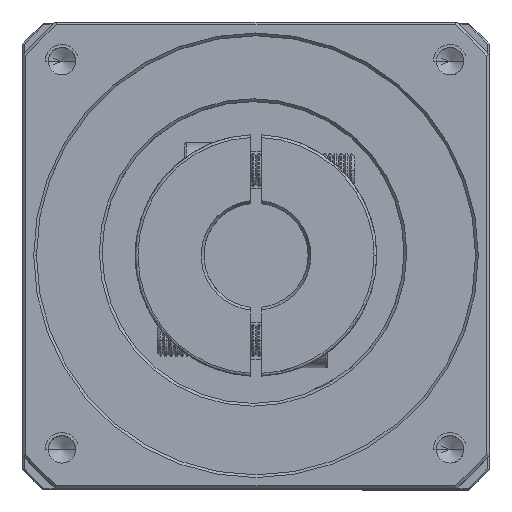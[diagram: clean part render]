
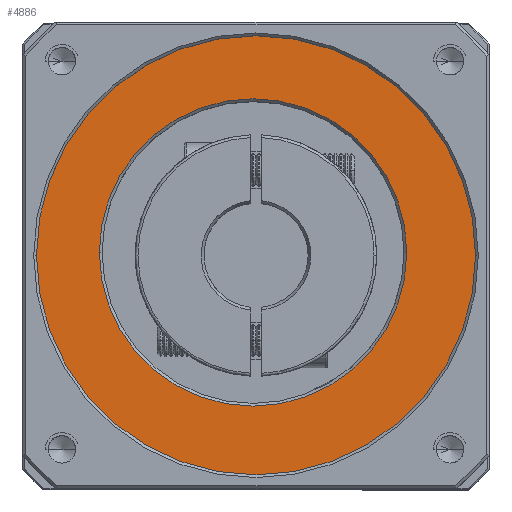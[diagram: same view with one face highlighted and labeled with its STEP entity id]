
A CAD part, top view. The second image highlights one B-rep face of the part: STEP entity #4886.
In plain terms, the highlighted planar face has unit normal (0, 0, 1).
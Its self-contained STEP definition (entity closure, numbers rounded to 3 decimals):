
#2014 = EDGE_CURVE ( 'NONE', #113762, #107703, #31924, .T. ) ;
#4886 = ADVANCED_FACE ( 'NONE', ( #78627, #72320 ), #108326, .T. ) ;
#8218 = CARTESIAN_POINT ( 'NONE',  ( -60.257, 25.408, 11.032 ) ) ;
#14904 = AXIS2_PLACEMENT_3D ( 'NONE', #81003, #51349, #32069 ) ;
#16569 = EDGE_CURVE ( 'NONE', #62027, #128720, #85526, .T. ) ;
#26265 = CARTESIAN_POINT ( 'NONE',  ( -32.799, 25.942, 11.032 ) ) ;
#28331 = DIRECTION ( 'NONE',  ( 0., 0., 1. ) ) ;
#29792 = DIRECTION ( 'NONE',  ( 1., 0., 0. ) ) ;
#30752 = EDGE_LOOP ( 'NONE', ( #60353, #128461 ) ) ;
#31924 = CIRCLE ( 'NONE', #76080, 40. ) ;
#32069 = DIRECTION ( 'NONE',  ( 1., 0., 0. ) ) ;
#36029 = EDGE_CURVE ( 'NONE', #128720, #62027, #90558, .T. ) ;
#51349 = DIRECTION ( 'NONE',  ( 0., 0., -1. ) ) ;
#53823 = EDGE_LOOP ( 'NONE', ( #83037, #60241 ) ) ;
#60241 = ORIENTED_EDGE ( 'NONE', *, *, #36029, .T. ) ;
#60353 = ORIENTED_EDGE ( 'NONE', *, *, #2014, .T. ) ;
#60787 = DIRECTION ( 'NONE',  ( 0., 0., 1. ) ) ;
#62027 = VERTEX_POINT ( 'NONE', #26265 ) ;
#72320 = FACE_BOUND ( 'NONE', #53823, .T. ) ;
#75791 = CARTESIAN_POINT ( 'NONE',  ( -60.257, 25.408, 11.032 ) ) ;
#76080 = AXIS2_PLACEMENT_3D ( 'NONE', #75791, #106421, #116443 ) ;
#78627 = FACE_OUTER_BOUND ( 'NONE', #30752, .T. ) ;
#79169 = CARTESIAN_POINT ( 'NONE',  ( -60.257, 25.408, 11.032 ) ) ;
#81003 = CARTESIAN_POINT ( 'NONE',  ( -60.799, 25.942, 11.032 ) ) ;
#83037 = ORIENTED_EDGE ( 'NONE', *, *, #16569, .T. ) ;
#84489 = DIRECTION ( 'NONE',  ( 0., 0., -1. ) ) ;
#85526 = CIRCLE ( 'NONE', #108265, 28. ) ;
#90558 = CIRCLE ( 'NONE', #14904, 28. ) ;
#90859 = CIRCLE ( 'NONE', #92928, 40. ) ;
#92928 = AXIS2_PLACEMENT_3D ( 'NONE', #79169, #60787, #29792 ) ;
#93351 = DIRECTION ( 'NONE',  ( 1., 0., 0. ) ) ;
#94997 = CARTESIAN_POINT ( 'NONE',  ( -100.257, 25.408, 11.032 ) ) ;
#102192 = CARTESIAN_POINT ( 'NONE',  ( -20.257, 25.408, 11.032 ) ) ;
#106421 = DIRECTION ( 'NONE',  ( 0., 0., 1. ) ) ;
#107703 = VERTEX_POINT ( 'NONE', #94997 ) ;
#108265 = AXIS2_PLACEMENT_3D ( 'NONE', #124305, #84489, #93351 ) ;
#108326 = PLANE ( 'NONE',  #125086 ) ;
#113762 = VERTEX_POINT ( 'NONE', #102192 ) ;
#116443 = DIRECTION ( 'NONE',  ( 1., 0., 0. ) ) ;
#117489 = DIRECTION ( 'NONE',  ( 1., 0., 0. ) ) ;
#124305 = CARTESIAN_POINT ( 'NONE',  ( -60.799, 25.942, 11.032 ) ) ;
#125086 = AXIS2_PLACEMENT_3D ( 'NONE', #8218, #28331, #117489 ) ;
#125308 = EDGE_CURVE ( 'NONE', #107703, #113762, #90859, .T. ) ;
#128461 = ORIENTED_EDGE ( 'NONE', *, *, #125308, .T. ) ;
#128720 = VERTEX_POINT ( 'NONE', #129278 ) ;
#129278 = CARTESIAN_POINT ( 'NONE',  ( -88.799, 25.942, 11.032 ) ) ;
